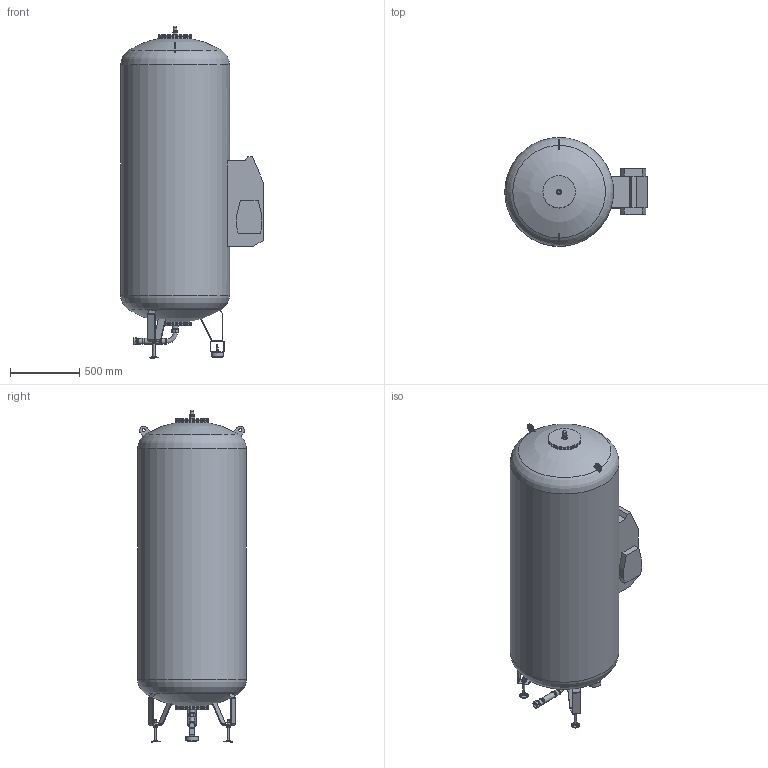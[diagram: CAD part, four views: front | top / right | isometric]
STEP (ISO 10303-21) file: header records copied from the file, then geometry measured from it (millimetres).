
FILE_DESCRIPTION(/* description */ (''),/* implementation_level */ '2;1');
FILE_NAME(/* name */ '\\DATASERVER\data\Flamco\3D-Modellen\Inventor\Flamcomat\2021_Flamcomat MK-U G4\flamcomat_mk-u_g4_1000l.stp',/* time_stamp */ '2021-11-29T11:01:53+01:00',/* author */ ('kasius'),/* organization */ (''),/* preprocessor_version */ 'ST-DEVELOPER v17',/* originating_system */ 'Autodesk Inventor 2018',/* authorisation */ '');
FILE_SCHEMA (('AUTOMOTIVE_DESIGN { 1 0 10303 214 3 1 1 }'));
Length unit declared in the file: millimetre
Products named in the file (1): flamcomat_mk-u_g4_1000l
Bounding box: 1031.9 x 787.8 x 2403.63 mm (x, y, z)
Volume: 983425084.1 mm3; surface area: 6444886.2 mm2
Topology: 5 solids, 5 shells, 334 faces, 895 edges, 616 vertices
Faces by surface type: plane 166, cylinder 102, cone 58, torus 5, sphere 3
Full cylindrical faces by diameter (mm): 4.6 x1, 9 x1, 10 x2, 12 x1, 12.997 x2, 13 x1, 14 x1, 14.5 x1, 15 x1, 15.997 x4, 17.998 x1, 20 x2, 20.955 x1, 23.5 x2, 24 x1, 27.625 x4, 31 x1, 32.997 x2, 33.7 x1, 38.75 x1, 39 x1, 40.8 x2, 41.4 x1, 41.91 x1, 42 x1, 46 x2, 65 x2, 90 x1, 188 x1, 208.362 x2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
Entity records: 10985 total; most frequent: DIRECTION 1969, CARTESIAN_POINT 1955, ORIENTED_EDGE 1800, EDGE_CURVE 900, AXIS2_PLACEMENT_3D 786, VERTEX_POINT 616, CIRCLE 451, LINE 397
